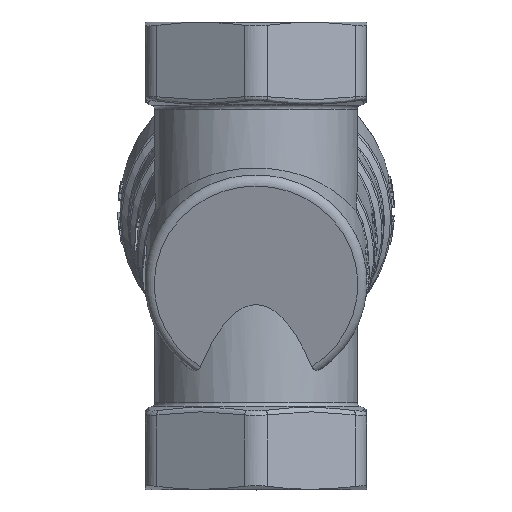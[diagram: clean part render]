
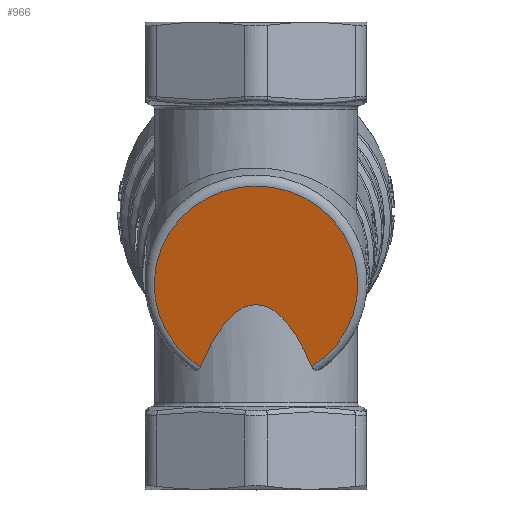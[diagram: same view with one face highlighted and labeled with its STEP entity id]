
A CAD part, top view. The second image highlights one B-rep face of the part: STEP entity #966.
In plain terms, the highlighted planar face has unit normal (0, -0.259, 0.966).
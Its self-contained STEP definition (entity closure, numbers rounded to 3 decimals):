
#966=ADVANCED_FACE('',(#6729),#6731,.F.);
#6729=FACE_BOUND('',#6730,.T.);
#6730=EDGE_LOOP('',(#14130,#14131));
#6731=PLANE('',#6732);
#6732=AXIS2_PLACEMENT_3D('',#6733,#6734,#6735);
#6733=CARTESIAN_POINT('',(0.,-6.212,23.182));
#6734=DIRECTION('',(0.,0.259,-0.966));
#6735=DIRECTION('',(0.,0.966,0.259));
#14130=ORIENTED_EDGE('',*,*,#18042,.F.);
#14131=ORIENTED_EDGE('',*,*,#17828,.T.);
#17828=EDGE_CURVE('',#19764,#19762,#19765,.T.);
#18042=EDGE_CURVE('',#19764,#19762,#20165,.T.);
#19762=VERTEX_POINT('',#24641);
#19764=VERTEX_POINT('',#24697);
#19765=(BOUNDED_CURVE()B_SPLINE_CURVE(3,
(#24698,#24699,#24700,#24701),
.UNSPECIFIED.,.F.,.F.)B_SPLINE_CURVE_WITH_KNOTS((4,4),
(0.,1.),
.UNSPECIFIED.)CURVE()GEOMETRIC_REPRESENTATION_ITEM()RATIONAL_B_SPLINE_CURVE((1.,
0.891,0.891,1.))REPRESENTATION_ITEM(''));
#20165=CIRCLE('',#27617,22.1);
#24641=CARTESIAN_POINT('',(12.073,-24.092,18.391));
#24697=CARTESIAN_POINT('',(-12.073,-24.092,18.391));
#24698=CARTESIAN_POINT('',(-12.073,-24.092,18.391));
#24699=CARTESIAN_POINT('',(-4.519,-5.583,23.351));
#24700=CARTESIAN_POINT('',(4.519,-5.583,23.351));
#24701=CARTESIAN_POINT('',(12.073,-24.092,18.391));
#27617=AXIS2_PLACEMENT_3D('',#27618,#27619,#27620);
#27618=CARTESIAN_POINT('',(0.,-6.212,23.182));
#27619=DIRECTION('',(0.,0.259,-0.966));
#27620=DIRECTION('',(-0.546,-0.809,-0.217));
